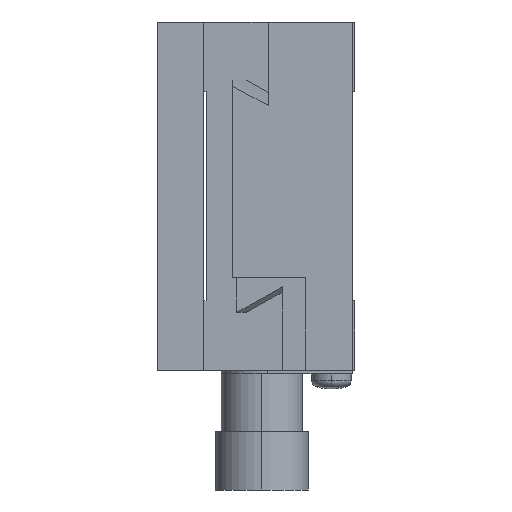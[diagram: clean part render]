
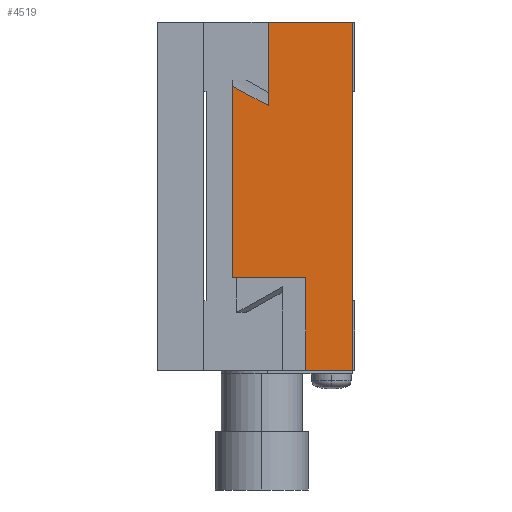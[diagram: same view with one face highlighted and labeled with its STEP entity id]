
A CAD part, left-side view. The second image highlights one B-rep face of the part: STEP entity #4519.
In plain terms, the highlighted planar face has unit normal (-1, 0, 0).
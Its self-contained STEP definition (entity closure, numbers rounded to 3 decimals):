
#1236 = CARTESIAN_POINT ( 'NONE',  ( -22., 0.2, 15. ) ) ;
#1286 = DIRECTION ( 'NONE',  ( 0., 0., -1. ) ) ;
#1287 = VECTOR ( 'NONE', #1286, 1000. ) ;
#1288 = CARTESIAN_POINT ( 'NONE',  ( -22., 4.2, -7. ) ) ;
#1289 = LINE ( 'NONE', #1288, #1287 ) ;
#1301 = CARTESIAN_POINT ( 'NONE',  ( -22., 10.5, 9.459 ) ) ;
#1302 = DIRECTION ( 'NONE',  ( 0., 0., 1. ) ) ;
#1303 = VECTOR ( 'NONE', #1302, 1000. ) ;
#1304 = CARTESIAN_POINT ( 'NONE',  ( -22., 10.5, -15. ) ) ;
#1305 = LINE ( 'NONE', #1304, #1303 ) ;
#1434 = CARTESIAN_POINT ( 'NONE',  ( -22., 10.5, -7. ) ) ;
#1435 = DIRECTION ( 'NONE',  ( 0., -1., 0. ) ) ;
#1436 = VECTOR ( 'NONE', #1435, 1000. ) ;
#1437 = CARTESIAN_POINT ( 'NONE',  ( -22., 4.2, -7. ) ) ;
#1438 = LINE ( 'NONE', #1437, #1436 ) ;
#1440 = CARTESIAN_POINT ( 'NONE',  ( -22., 4.2, -7. ) ) ;
#1624 = CARTESIAN_POINT ( 'NONE',  ( -22., 0.2, -15. ) ) ;
#1625 = DIRECTION ( 'NONE',  ( 0., 0., 1. ) ) ;
#1626 = VECTOR ( 'NONE', #1625, 1000. ) ;
#1627 = CARTESIAN_POINT ( 'NONE',  ( -22., 0.2, -15. ) ) ;
#1628 = LINE ( 'NONE', #1627, #1626 ) ;
#1686 = CARTESIAN_POINT ( 'NONE',  ( -22., 4.2, -15. ) ) ;
#1802 = B_SPLINE_CURVE_WITH_KNOTS ( 'NONE', 3,
 ( #1809, #1808, #1807, #1806 ),
 .UNSPECIFIED., .F., .F.,
 ( 4, 4 ),
 ( 0.011, 0.015 ),
 .UNSPECIFIED. ) ;
#1806 = CARTESIAN_POINT ( 'NONE',  ( -22., 7.456, 7.806 ) ) ;
#1807 = CARTESIAN_POINT ( 'NONE',  ( -22., 8.47, 8.358 ) ) ;
#1808 = CARTESIAN_POINT ( 'NONE',  ( -22., 9.485, 8.909 ) ) ;
#1809 = CARTESIAN_POINT ( 'NONE',  ( -22., 10.5, 9.459 ) ) ;
#2042 = DIRECTION ( 'NONE',  ( 0., -1., 0. ) ) ;
#2043 = VECTOR ( 'NONE', #2042, 1000. ) ;
#2044 = CARTESIAN_POINT ( 'NONE',  ( -22., 10.5, -15. ) ) ;
#2045 = LINE ( 'NONE', #2044, #2043 ) ;
#2134 = CARTESIAN_POINT ( 'NONE',  ( -22., 7.456, 7.806 ) ) ;
#2135 = DIRECTION ( 'NONE',  ( 0., 0., 1. ) ) ;
#2136 = VECTOR ( 'NONE', #2135, 1000. ) ;
#2137 = CARTESIAN_POINT ( 'NONE',  ( -22., 7.456, 0. ) ) ;
#2138 = LINE ( 'NONE', #2137, #2136 ) ;
#2141 = CARTESIAN_POINT ( 'NONE',  ( -22., 7.456, 15. ) ) ;
#2142 = DIRECTION ( 'NONE',  ( 0., -1., 0. ) ) ;
#2143 = VECTOR ( 'NONE', #2142, 1000. ) ;
#2144 = CARTESIAN_POINT ( 'NONE',  ( -22., 10.5, 15. ) ) ;
#2145 = LINE ( 'NONE', #2144, #2143 ) ;
#2146 = DIRECTION ( 'NONE',  ( 0., 0., -1. ) ) ;
#2147 = DIRECTION ( 'NONE',  ( 1., 0., 0. ) ) ;
#2148 = CARTESIAN_POINT ( 'NONE',  ( -22., 10.5, -15. ) ) ;
#2149 = AXIS2_PLACEMENT_3D ( 'NONE', #2148, #2147, #2146 ) ;
#2150 = PLANE ( 'NONE',  #2149 ) ;
#2151 = FACE_OUTER_BOUND ( 'NONE', #4520, .T. ) ;
#3966 = VERTEX_POINT ( 'NONE', #1236 ) ;
#4111 = EDGE_CURVE ( 'NONE', #4129, #4112, #1305, .T. ) ;
#4112 = VERTEX_POINT ( 'NONE', #1301 ) ;
#4122 = EDGE_CURVE ( 'NONE', #4123, #4178, #1289, .T. ) ;
#4123 = VERTEX_POINT ( 'NONE', #1440 ) ;
#4128 = EDGE_CURVE ( 'NONE', #4129, #4123, #1438, .T. ) ;
#4129 = VERTEX_POINT ( 'NONE', #1434 ) ;
#4178 = VERTEX_POINT ( 'NONE', #1686 ) ;
#4274 = EDGE_CURVE ( 'NONE', #4275, #3966, #1628, .T. ) ;
#4275 = VERTEX_POINT ( 'NONE', #1624 ) ;
#4358 = ORIENTED_EDGE ( 'NONE', *, *, #4359, .F. ) ;
#4359 = EDGE_CURVE ( 'NONE', #4112, #4528, #1802, .T. ) ;
#4360 = ORIENTED_EDGE ( 'NONE', *, *, #4111, .F. ) ;
#4361 = ORIENTED_EDGE ( 'NONE', *, *, #4128, .T. ) ;
#4362 = ORIENTED_EDGE ( 'NONE', *, *, #4122, .T. ) ;
#4519 = ADVANCED_FACE ( 'NONE', ( #2151 ), #2150, .F. ) ;
#4520 = EDGE_LOOP ( 'NONE', ( #4521, #4522, #4523, #4526, #4358, #4360, #4361, #4362 ) ) ;
#4521 = ORIENTED_EDGE ( 'NONE', *, *, #4553, .T. ) ;
#4522 = ORIENTED_EDGE ( 'NONE', *, *, #4274, .T. ) ;
#4523 = ORIENTED_EDGE ( 'NONE', *, *, #4524, .F. ) ;
#4524 = EDGE_CURVE ( 'NONE', #4525, #3966, #2145, .T. ) ;
#4525 = VERTEX_POINT ( 'NONE', #2141 ) ;
#4526 = ORIENTED_EDGE ( 'NONE', *, *, #4527, .F. ) ;
#4527 = EDGE_CURVE ( 'NONE', #4528, #4525, #2138, .T. ) ;
#4528 = VERTEX_POINT ( 'NONE', #2134 ) ;
#4553 = EDGE_CURVE ( 'NONE', #4178, #4275, #2045, .T. ) ;
